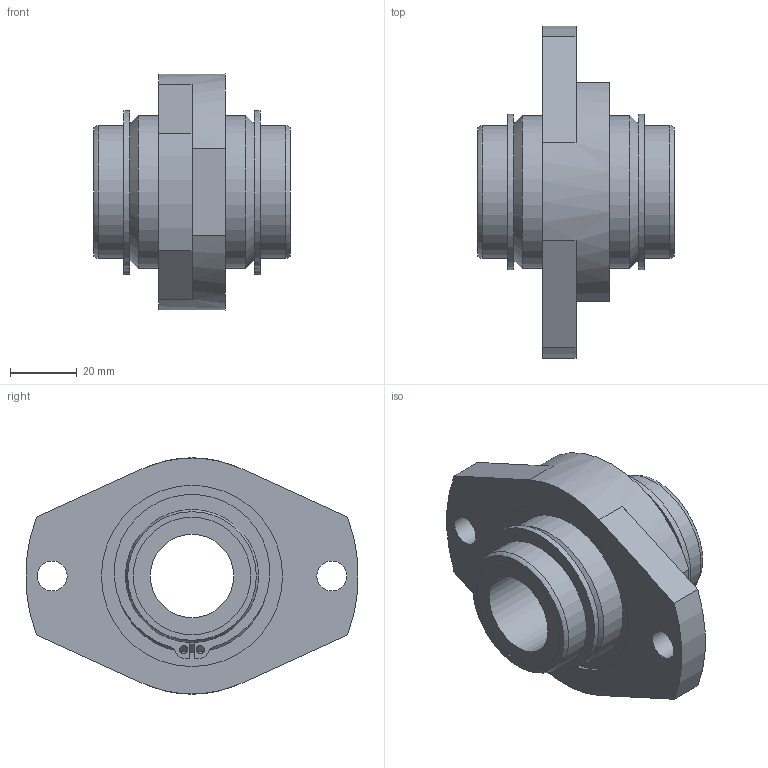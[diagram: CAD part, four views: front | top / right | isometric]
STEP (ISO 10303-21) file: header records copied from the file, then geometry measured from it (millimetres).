
FILE_DESCRIPTION((''),'2;1');
FILE_NAME('D:\製品 (図面)\カタログ用3D\シャフトブロック\PF\PF25.stp','2010-01-28T16:29:46',('Tsuchiya'),(''),'Autodesk Inventor 10','Autodesk Inventor 10','');
FILE_SCHEMA(('AUTOMOTIVE_DESIGN { 1 0 10303 214 1 1 1 1 }'));
Length unit declared in the file: millimetre
Products named in the file (1): PF25
Bounding box: 59 x 99.74 x 71 mm (x, y, z)
Volume: 115922 mm3; surface area: 29232.3 mm2
Topology: 1 solids, 2 shells, 71 faces, 169 edges, 111 vertices
Faces by surface type: plane 26, cylinder 22, bspline 15, sphere 3, cone 3, torus 2
Full cylindrical faces by diameter (mm): 2.5 x2, 25 x1, 35.3 x2, 38 x2, 40 x2, 46 x2
Entity records: 2140 total; most frequent: CARTESIAN_POINT 521, DIRECTION 344, ORIENTED_EDGE 286, AXIS2_PLACEMENT_3D 144, EDGE_CURVE 143, EDGE_LOOP 118, VERTEX_POINT 107, CIRCLE 87
